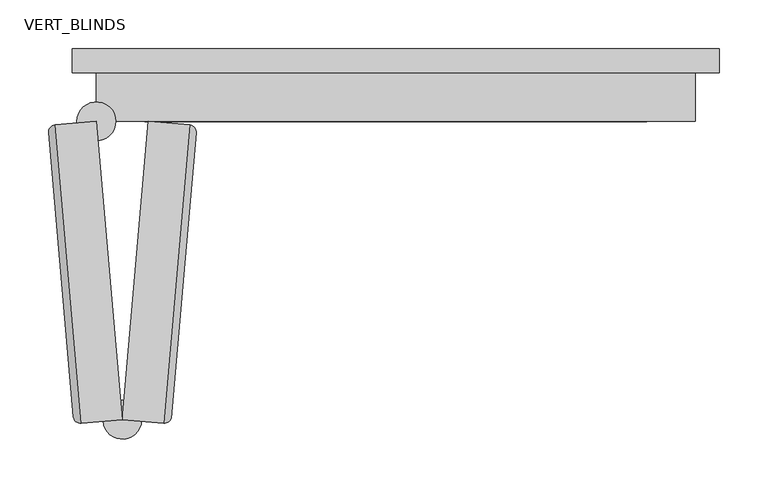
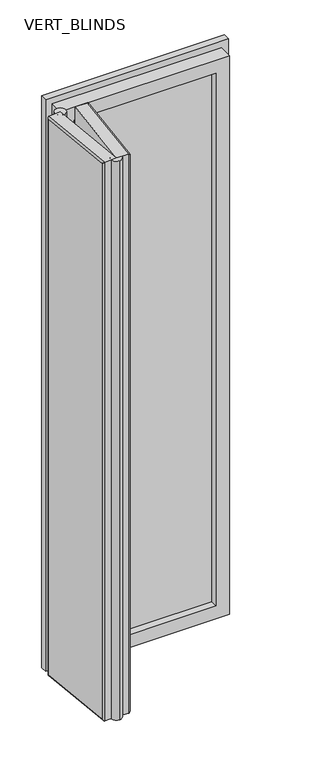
"""IFC4 building model written with IfcOpenShell, lengths in millimetres: plate geometry, CURTAIN PANEL VODA STYLE BIFOLDING : VERT_BLINDS."""

import ifcopenshell
import ifcopenshell.guid

model = None  # the IFC model being written
_history = None  # IfcOwnerHistory: only IFC2X3 demands one
_inside = {}  # id of a spatial element -> (the spatial element, [elements in it])
_under = {}  # id of a project, library or spatial element -> (it, [spatial elements below it])
_declared = {}  # id of a project -> (the project, [libraries it declares])
_typed = {}  # id of a type object -> (the type object, [elements of that type])
_made_of = {}  # id of a material, layer set ... -> (it, [elements and type objects made of it])


def new_model(schema):
    """Start an empty IFC model of exactly this schema.

    Asked for "IFC4X3", IfcOpenShell would pick the latest addendum, in which some entities
    have other attributes; the version numbers below select the first issue.
    IFC2X3 requires an IfcOwnerHistory on every rooted entity: one is made here for all.
    """
    global model, _history
    if schema == "IFC4X3":
        model = ifcopenshell.file(schema_version=(4, 3, 0, 0))
    else:
        model = ifcopenshell.file(schema=schema)
    _inside.clear()
    _under.clear()
    _declared.clear()
    _typed.clear()
    _made_of.clear()
    _history = None
    if model.schema == "IFC2X3":
        org = make("IfcOrganization", Name="unknown")
        user = make(
            "IfcPersonAndOrganization",
            ThePerson=make("IfcPerson", FamilyName="unknown"),
            TheOrganization=org,
        )
        app = make(
            "IfcApplication",
            ApplicationDeveloper=org,
            Version="unknown",
            ApplicationFullName="unknown",
            ApplicationIdentifier="unknown",
        )
        _history = make(
            "IfcOwnerHistory",
            OwningUser=user,
            OwningApplication=app,
            ChangeAction="ADDED",
            CreationDate=0,
        )
    return model


def make(cls, **values):
    """One entity of the class cls with the attributes given. An attribute that is None is left unset."""
    return model.create_entity(
        cls, **{name: value for name, value in values.items() if value is not None}
    )


def rooted(cls, **values):
    """An entity with a GlobalId (a new one), such as an element, a storey or a relation."""
    return make(cls, GlobalId=ifcopenshell.guid.new(), OwnerHistory=_history, **values)


def si_unit(unit_type, name, prefix=None):
    """IfcSIUnit, for example si_unit("LENGTHUNIT", "METRE", prefix="MILLI")."""
    return make("IfcSIUnit", UnitType=unit_type, Prefix=prefix, Name=name)


def assignment(units):
    """IfcUnitAssignment: the units of a project."""
    return None if units is None else make("IfcUnitAssignment", Units=units)


def point(xyz):
    """IfcCartesianPoint."""
    return None if xyz is None else make("IfcCartesianPoint", Coordinates=xyz)


def direction(xyz):
    """IfcDirection."""
    return None if xyz is None else make("IfcDirection", DirectionRatios=xyz)


def frame(location, z_axis=None, x_axis=None):
    """IfcAxis2Placement3D, a coordinate frame: its origin and axes. An axis left out is left unset."""
    return make(
        "IfcAxis2Placement3D",
        Location=point(location),
        Axis=direction(z_axis),
        RefDirection=direction(x_axis),
    )


def frame_2d(location, x_axis=None):
    """IfcAxis2Placement2D, a coordinate frame in the plane: its origin and x axis."""
    return make(
        "IfcAxis2Placement2D", Location=point(location), RefDirection=direction(x_axis)
    )


def origin():
    """The frame at (0, 0, 0) with its axes left unset."""
    return frame((0.0, 0.0, 0.0))


def place(relative_to, where):
    """IfcLocalPlacement: puts the frame where relative to a parent placement (None: the world)."""
    return make(
        "IfcLocalPlacement", PlacementRelTo=relative_to, RelativePlacement=where
    )


def context(
    kind, dimensions, precision=None, world=None, true_north=None, identifier=None
):
    """IfcGeometricRepresentationContext, for example the 3D "Model" context."""
    return make(
        "IfcGeometricRepresentationContext",
        ContextIdentifier=identifier,
        ContextType=kind,
        CoordinateSpaceDimension=dimensions,
        Precision=precision,
        WorldCoordinateSystem=world,
        TrueNorth=true_north,
    )


def project(units=None, contexts=None):
    """IfcProject with its units and contexts."""
    return rooted(
        "IfcProject",
        Name="project",
        RepresentationContexts=contexts,
        UnitsInContext=assignment(units),
    )


def spatial(cls, under=None, at=None, **own):
    """A site, building, storey or space (cls), placed at a placement, below another one or the project."""
    s = rooted(cls, ObjectPlacement=at, **own)
    if under is not None:
        _under.setdefault(under.id(), (under, []))[1].append(s)
    return s


def polyline(points):
    """IfcPolyline through the points."""
    return make("IfcPolyline", Points=[point(p) for p in points])


def circle_curve(where, radius):
    """IfcCircle in the frame where."""
    return make("IfcCircle", Position=where, Radius=radius)


def ellipse_curve(where, semi_axis1, semi_axis2):
    """IfcEllipse in the frame where."""
    return make(
        "IfcEllipse", Position=where, SemiAxis1=semi_axis1, SemiAxis2=semi_axis2
    )


def trimmed(basis, trim1, trim2, sense, master):
    """IfcTrimmedCurve: the piece of a basis curve between two trims."""
    return make(
        "IfcTrimmedCurve",
        BasisCurve=basis,
        Trim1=trim1,
        Trim2=trim2,
        SenseAgreement=sense,
        MasterRepresentation=master,
    )


def segment(curve, same_sense, transition):
    """IfcCompositeCurveSegment."""
    return make(
        "IfcCompositeCurveSegment",
        Transition=transition,
        SameSense=same_sense,
        ParentCurve=curve,
    )


def composite_curve(segments, self_intersect=None):
    """IfcCompositeCurve: segments joined end to end."""
    return make("IfcCompositeCurve", Segments=segments, SelfIntersect=self_intersect)


def outline(outer, holes=None, kind="AREA"):
    """IfcArbitraryClosedProfileDef: a profile drawn as a closed curve; with holes, ...WithVoids."""
    if holes is None:
        return make("IfcArbitraryClosedProfileDef", ProfileType=kind, OuterCurve=outer)
    return make(
        "IfcArbitraryProfileDefWithVoids",
        ProfileType=kind,
        OuterCurve=outer,
        InnerCurves=holes,
    )


def extrude(swept, where, along, depth):
    """IfcExtrudedAreaSolid: the profile swept, set in the frame where, extruded along a direction by depth."""
    return make(
        "IfcExtrudedAreaSolid",
        SweptArea=swept,
        Position=where,
        ExtrudedDirection=direction(along),
        Depth=depth,
    )


def faces_of(points, faces, orient=None, outer=None):
    """IfcFace entities. A face is a list of loops; a loop is a list of indices into points, from 0.

    orient and outer hold one flag for each loop. By default every Orientation is true, the
    first loop of a face is its IfcFaceOuterBound and the others are IfcFaceBound.
    """
    made = []
    for i, loops in enumerate(faces):
        bounds = []
        for j, loop in enumerate(loops):
            is_outer = j == 0 if outer is None else outer[i][j]
            bounds.append(
                make(
                    "IfcFaceOuterBound" if is_outer else "IfcFaceBound",
                    Bound=make("IfcPolyLoop", Polygon=[points[k] for k in loop]),
                    Orientation=True if orient is None else orient[i][j],
                )
            )
        made.append(make("IfcFace", Bounds=bounds))
    return made


def faceted_brep(points, faces, orient=None, outer=None, voids=None):
    """IfcFacetedBrep: a solid bounded by flat faces; with voids (closed shells), ...WithVoids."""
    shared = [point(p) for p in points]
    hull = make("IfcClosedShell", CfsFaces=faces_of(shared, faces, orient, outer))
    if voids is None:
        return make("IfcFacetedBrep", Outer=hull)
    return make(
        "IfcFacetedBrepWithVoids",
        Outer=hull,
        Voids=[
            make(cls, CfsFaces=faces_of(shared, fs, o, b)) for cls, fs, o, b in voids
        ],
    )


def shape(context_of_items, identifier, shape_type, items):
    """IfcShapeRepresentation: the items that make up one representation, for example the "Body"."""
    return make(
        "IfcShapeRepresentation",
        ContextOfItems=context_of_items,
        RepresentationIdentifier=identifier,
        RepresentationType=shape_type,
        Items=items,
    )


def source(mapping_origin, context_of_items, identifier, shape_type, items):
    """IfcRepresentationMap: a shape defined once, which mapped items show again and again."""
    return make(
        "IfcRepresentationMap",
        MappingOrigin=mapping_origin,
        MappedRepresentation=shape(context_of_items, identifier, shape_type, items),
    )


def transform(
    local_origin,
    x_axis=None,
    y_axis=None,
    z_axis=None,
    scale=None,
    scale2=None,
    scale3=None,
    uniform=True,
):
    """IfcCartesianTransformationOperator3D, or its non-uniform kind. x_axis, y_axis, z_axis: its Axis1, 2, 3."""
    if uniform:
        return make(
            "IfcCartesianTransformationOperator3D",
            Axis1=direction(x_axis),
            Axis2=direction(y_axis),
            LocalOrigin=point(local_origin),
            Scale=scale,
            Axis3=direction(z_axis),
        )
    return make(
        "IfcCartesianTransformationOperator3DnonUniform",
        Axis1=direction(x_axis),
        Axis2=direction(y_axis),
        LocalOrigin=point(local_origin),
        Scale=scale,
        Axis3=direction(z_axis),
        Scale2=scale2,
        Scale3=scale3,
    )


def mapped(mapping_source, mapping_target):
    """IfcMappedItem: shows the shape of a source again, moved by a transform."""
    return make(
        "IfcMappedItem", MappingSource=mapping_source, MappingTarget=mapping_target
    )


def made_of(thing, what):
    """Note that an element or type object is made of a material, layer set ...; save() writes the relation."""
    if what is not None:
        _made_of.setdefault(what.id(), (what, []))[1].append(thing)
    return thing


def element(
    cls,
    number,
    at=None,
    inside=None,
    cuts=None,
    type_object=None,
    material=None,
    context=None,
    identifier="Body",
    shape_type=None,
    held_by="IfcProductDefinitionShape",
    body=None,
    shapes=None,
    **own,
):
    """One element of the class cls, such as IfcWall. Its Tag is "e" and its number.

    at: its placement. inside: the storey or other place that contains it. cuts: it is an
    opening in that element (IfcRelVoidsElement). A single representation is given by context,
    identifier, shape_type and body (its items); several are given by shapes. held_by: the class
    of the entity that holds the representations. save() writes the other relations.
    """
    e = rooted(cls, Tag="e%d" % number, ObjectPlacement=at, **own)
    if body is not None:
        shapes = [shape(context, identifier, shape_type, body)]
    if shapes is not None:
        e.Representation = make(held_by, Representations=shapes)
    if inside is not None:
        _inside.setdefault(inside.id(), (inside, []))[1].append(e)
    if cuts is not None:
        rooted(
            "IfcRelVoidsElement", RelatingBuildingElement=cuts, RelatedOpeningElement=e
        )
    if type_object is not None:
        _typed.setdefault(type_object.id(), (type_object, []))[1].append(e)
    return made_of(e, material)


def aggregate(whole, parts):
    """IfcRelAggregates: a whole, such as a stair, and the parts it consists of."""
    return rooted("IfcRelAggregates", RelatingObject=whole, RelatedObjects=parts)


def save(model, path):
    """Write the relations noted so far, then the file.

    IfcRelAggregates (storeys below a building ...), IfcRelContainedInSpatialStructure (elements
    in a storey), IfcRelDefinesByType, IfcRelAssociatesMaterial and IfcRelDeclares: one each for
    every whole, place, type object, material and project.
    """
    for whole, parts in _under.values():
        aggregate(whole, parts)
    for where, things in _inside.values():
        rooted(
            "IfcRelContainedInSpatialStructure",
            RelatedElements=things,
            RelatingStructure=where,
        )
    for kind, things in _typed.values():
        rooted("IfcRelDefinesByType", RelatedObjects=things, RelatingType=kind)
    for what, things in _made_of.values():
        rooted("IfcRelAssociatesMaterial", RelatedObjects=things, RelatingMaterial=what)
    for by, libraries in _declared.values():
        rooted("IfcRelDeclares", RelatingContext=by, RelatedDefinitions=libraries)
    model.write(path)


def plane_surface(at):
    """IfcPlane: the flat surface through the origin of the frame at, square to its z axis."""
    return make("IfcPlane", Position=at)


def cylinder_surface(at, radius):
    """IfcCylindricalSurface: all points at the distance radius from the z axis of the frame at."""
    return make("IfcCylindricalSurface", Position=at, Radius=radius)


def advanced_brep(points, edges, surfaces, faces):
    """IfcAdvancedBrep: a solid bounded by faces that lie on surfaces and meet in shared edges.

    An edge is (start, end): straight between two places in points (the first is 0);
    or (start, end, curve); or (start, end, curve, False) where it runs against its curve.
    A face is (place in surfaces, loops), or (place, loops, False) where it looks against
    its surface's normal. A loop lists edges by number (the first is 1), with a minus sign
    where the edge is run from its end to its start. The first loop is the outer one.
    """
    corners = [point(p) for p in points]
    vertices = [make("IfcVertexPoint", VertexGeometry=c) for c in corners]
    made = []
    for start, end, *more in edges:
        made.append(
            make(
                "IfcEdgeCurve",
                EdgeStart=vertices[start],
                EdgeEnd=vertices[end],
                EdgeGeometry=more[0] if more else make("IfcPolyline", Points=[corners[start], corners[end]]),
                SameSense=more[1] if len(more) > 1 else True,
            )
        )
    hull = []
    for where, loops, *sense in faces:
        bounds = []
        for j, loop in enumerate(loops):
            ring = [make("IfcOrientedEdge", EdgeElement=made[abs(k) - 1], Orientation=k > 0) for k in loop]
            bounds.append(
                make(
                    "IfcFaceOuterBound" if j == 0 else "IfcFaceBound",
                    Bound=make("IfcEdgeLoop", EdgeList=ring),
                    Orientation=True,
                )
            )
        hull.append(make("IfcAdvancedFace", Bounds=bounds, FaceSurface=surfaces[where], SameSense=sense[0] if sense else True))
    return make("IfcAdvancedBrep", Outer=make("IfcClosedShell", CfsFaces=hull))


def vert_blinds_a71b7738(model_context):
    return source(origin(), model_context, "Body", "SolidModel", [
        advanced_brep(
        [(-308.3333333, -50.0, 2175.0), (-350.671608, -53.7041191, 2175.0), (-323.7985873, -360.864151, 2175.0), (-281.4603127, -357.1600319, 2175.0), (-281.4603127, -357.1600319, 25.0), (-323.7985873, -360.864151, 25.0), (-350.671608, -53.7041191, 25.0), (-308.3333333, -50.0, 25.0), (-357.4894002, -61.8292474, 32.5), (-331.9237156, -354.0463588, 32.5), (-331.9237156, -354.0463588, 2167.5), (-357.4894002, -61.8292474, 2167.5)],
        [
            (0, 1),
            (1, 2),
            (2, 3),
            (3, 0),
            (4, 5),
            (5, 6),
            (6, 7),
            (7, 4),
            (2, 5),
            (4, 3),
            (8, 9),
            (9, 10),
            (10, 11),
            (11, 8),
            (6, 1),
            (0, 7),
            (11, 1, ellipse_curve(frame((-350.0179399, -61.1755793, 2167.5), z_axis=(-0.061628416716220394, 0.7044160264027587, -0.7071067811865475), x_axis=(0.061628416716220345, -0.7044160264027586, -0.7071067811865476)), 10.6066017, 7.5)),
            (6, 8, ellipse_curve(frame((-350.0179399, -61.1755793, 32.5), z_axis=(-0.06162841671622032, 0.7044160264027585, 0.7071067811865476), x_axis=(-0.061628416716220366, 0.7044160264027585, -0.7071067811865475)), 10.6066017, 7.5)),
            (5, 9, ellipse_curve(frame((-324.4522554, -353.3926907, 32.5), z_axis=(-0.06162841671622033, 0.7044160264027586, -0.7071067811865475), x_axis=(0.06162841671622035, -0.7044160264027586, -0.7071067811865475)), 10.6066017, 7.5)),
            (2, 10, ellipse_curve(frame((-324.4522554, -353.3926907, 2167.5), z_axis=(0.06162841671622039, -0.7044160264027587, -0.7071067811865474), x_axis=(0.06162841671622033, -0.7044160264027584, 0.7071067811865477)), 10.6066017, 7.5)),
        ],
        [
            plane_surface(frame((-331.2700476, -361.517819, 2175.0), z_axis=(0.0, 0.0, 1.0), x_axis=(-0.9961946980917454, -0.0871557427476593, 0.0))),
            plane_surface(frame((-331.2700476, -361.517819, 25.0), z_axis=(0.0, 0.0, -1.0), x_axis=(0.9961946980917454, 0.0871557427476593, 0.0))),
            plane_surface(frame((-281.4603127, -357.1600319, 2175.0), z_axis=(0.0871557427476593, -0.9961946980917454, 0.0), x_axis=(0.0, 0.0, -1.0))),
            plane_surface(frame((-331.2700476, -361.517819, 2175.0), z_axis=(-0.9961946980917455, -0.08715574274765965, 0.0), x_axis=(0.0, 0.0, -1.0))),
            plane_surface(frame((-358.1430682, -54.3577871, 2175.0), z_axis=(-0.08715574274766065, 0.9961946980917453, 0.0), x_axis=(0.0, 0.0, -1.0))),
            plane_surface(frame((-308.3333333, -50.0, 2175.0), z_axis=(0.9961946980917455, 0.08715574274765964, 0.0), x_axis=(0.0, 0.0, -1.0))),
            cylinder_surface(frame((-350.0179399, -61.1755793, 2175.0), z_axis=(0.0, 0.0, -1.0000000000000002), x_axis=(0.9961946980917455, 0.08715574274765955, 0.0)), 7.5),
            cylinder_surface(frame((-350.671608, -53.7041191, 32.5), z_axis=(0.08715574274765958, -0.9961946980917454, 0.0), x_axis=(0.9961946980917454, 0.08715574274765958, 0.0)), 7.5),
            cylinder_surface(frame((-324.4522554, -353.3926907, 25.0), z_axis=(0.0, 0.0, 1.0000000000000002), x_axis=(0.9961946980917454, 0.08715574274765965, 0.0)), 7.5),
            cylinder_surface(frame((-323.7985873, -360.864151, 2167.5), z_axis=(-0.08715574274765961, 0.9961946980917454, 0.0), x_axis=(0.9961946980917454, 0.08715574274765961, 0.0)), 7.5),
        ],
        [
            (0, [[1, 2, 3, 4]]),
            (1, [[5, 6, 7, 8]]),
            (2, [[-3, 9, -5, 10]]),
            (3, [[11, 12, 13, 14]]),
            (4, [[-7, 15, -1, 16]]),
            (5, [[-10, -8, -16, -4]]),
            (6, [[-14, 17, -15, 18]]),
            (7, [[-6, 19, -11, -18]]),
            (8, [[-9, 20, -12, -19]]),
            (9, [[-13, -20, -2, -17]]),
        ],
    ),
        advanced_brep(
        [(-281.4603127, -357.1600319, 2175.0), (-239.122038, -360.864151, 2175.0), (-212.2490173, -53.7041191, 2175.0), (-254.587292, -50.0, 2175.0), (-254.587292, -50.0, 25.0), (-212.2490173, -53.7041191, 25.0), (-239.122038, -360.864151, 25.0), (-281.4603127, -357.1600319, 25.0), (-230.9969097, -354.0463588, 32.5), (-205.4312251, -61.8292474, 32.5), (-205.4312251, -61.8292474, 2167.5), (-230.9969097, -354.0463588, 2167.5)],
        [
            (0, 1),
            (1, 2),
            (2, 3),
            (3, 0),
            (4, 5),
            (5, 6),
            (6, 7),
            (7, 4),
            (2, 5),
            (4, 3),
            (8, 9),
            (9, 10),
            (10, 11),
            (11, 8),
            (6, 1),
            (0, 7),
            (11, 1, ellipse_curve(frame((-238.4683699, -353.3926907, 2167.5), z_axis=(-0.061628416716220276, -0.7044160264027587, -0.7071067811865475), x_axis=(0.06162841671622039, 0.7044160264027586, -0.7071067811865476)), 10.6066017, 7.5)),
            (6, 8, ellipse_curve(frame((-238.4683699, -353.3926907, 32.5), z_axis=(-0.06162841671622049, -0.7044160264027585, 0.7071067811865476), x_axis=(-0.06162841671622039, -0.7044160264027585, -0.7071067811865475)), 10.6066017, 7.5)),
            (5, 9, ellipse_curve(frame((-212.9026854, -61.1755793, 32.5), z_axis=(-0.061628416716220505, -0.7044160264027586, -0.7071067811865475), x_axis=(0.06162841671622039, 0.7044160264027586, -0.7071067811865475)), 10.6066017, 7.5)),
            (2, 10, ellipse_curve(frame((-212.9026854, -61.1755793, 2167.5), z_axis=(0.061628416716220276, 0.7044160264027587, -0.7071067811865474), x_axis=(0.061628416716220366, 0.7044160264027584, 0.7071067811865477)), 10.6066017, 7.5)),
        ],
        [
            plane_surface(frame((-204.7775571, -54.3577871, 2175.0), z_axis=(0.0, 0.0, 1.0), x_axis=(0.9961946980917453, -0.08715574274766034, 0.0))),
            plane_surface(frame((-204.7775571, -54.3577871, 25.0), z_axis=(0.0, 0.0, -1.0), x_axis=(-0.9961946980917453, 0.08715574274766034, 0.0))),
            plane_surface(frame((-254.587292, -50.0, 2175.0), z_axis=(0.08715574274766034, 0.9961946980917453, 0.0), x_axis=(0.0, 0.0, -1.0))),
            plane_surface(frame((-204.7775571, -54.3577871, 2175.0), z_axis=(0.9961946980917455, -0.08715574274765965, 0.0), x_axis=(0.0, 0.0, -1.0))),
            plane_surface(frame((-231.6505777, -361.517819, 2175.0), z_axis=(-0.08715574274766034, -0.9961946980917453, 0.0), x_axis=(0.0, 0.0, -1.0))),
            plane_surface(frame((-281.4603127, -357.1600319, 2175.0), z_axis=(-0.9961946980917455, 0.08715574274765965, 0.0), x_axis=(0.0, 0.0, -1.0))),
            cylinder_surface(frame((-238.4683699, -353.3926907, 2175.0), z_axis=(0.0, 0.0, -1.0000000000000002), x_axis=(-0.9961946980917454, 0.08715574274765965, 0.0)), 7.5),
            cylinder_surface(frame((-239.122038, -360.864151, 32.5), z_axis=(0.08715574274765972, 0.9961946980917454, 0.0), x_axis=(-0.9961946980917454, 0.08715574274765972, 0.0)), 7.5),
            cylinder_surface(frame((-212.9026854, -61.1755793, 25.0), z_axis=(0.0, 0.0, 1.0000000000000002), x_axis=(-0.9961946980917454, 0.08715574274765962, 0.0)), 7.5),
            cylinder_surface(frame((-212.2490173, -53.7041191, 2167.5), z_axis=(-0.08715574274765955, -0.9961946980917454, 0.0), x_axis=(-0.9961946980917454, 0.08715574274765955, 0.0)), 7.5),
        ],
        [
            (0, [[1, 2, 3, 4]]),
            (1, [[5, 6, 7, 8]]),
            (2, [[-3, 9, -5, 10]]),
            (3, [[11, 12, 13, 14]]),
            (4, [[-7, 15, -1, 16]]),
            (5, [[-10, -8, -16, -4]]),
            (6, [[-14, 17, -15, 18]]),
            (7, [[-6, 19, -11, -18]]),
            (8, [[-9, 20, -12, -19]]),
            (9, [[-13, -20, -2, -17]]),
        ],
    ),
        extrude(outline(composite_curve([segment(trimmed(circle_curve(frame_2d((-308.3333333, -50.0)), 20.0), [point((-328.3333333, -50.0))], [point((-288.3333333, -50.0))], False, "CARTESIAN"), True, "CONTINUOUS"), segment(trimmed(circle_curve(frame_2d((-308.3333333, -50.0)), 20.0), [point((-288.3333333, -50.0))], [point((-328.3333333, -50.0))], False, "CARTESIAN"), True, "CONTINUOUS")], self_intersect=False)), frame((0.0, 0.0, 25.0), z_axis=(0.0, 0.0, 1.0), x_axis=(1.0, 0.0, 0.0)), (0.0, 0.0, 1.0), 2150.0),
        extrude(outline(composite_curve([segment(trimmed(circle_curve(frame_2d((-281.4603127, -357.1600319)), 20.0), [point((-283.2034275, -337.2361379))], [point((-279.7171978, -377.0839259))], False, "CARTESIAN"), True, "CONTINUOUS"), segment(trimmed(circle_curve(frame_2d((-281.4603127, -357.1600319)), 20.0), [point((-279.7171978, -377.0839259))], [point((-283.2034275, -337.2361379))], False, "CARTESIAN"), True, "CONTINUOUS")], self_intersect=False)), frame((0.0, 0.0, 25.0), z_axis=(0.0, 0.0, 1.0), x_axis=(1.0, 0.0, 0.0)), (0.0, 0.0, 1.0), 2150.0),
        extrude(outline(polyline([(-258.3333333, -24.0), (-258.3333333, 0.0), (258.3333333, 0.0), (258.3333333, -24.0), (-258.3333333, -24.0)])), frame((0.0, 0.0, 75.0), z_axis=(0.0, 0.0, 1.0), x_axis=(1.0, 0.0, 0.0)), (0.0, 0.0, 1.0), 2050.0),
        faceted_brep([(-258.3333333, -50.0, 2125.0), (-258.3333333, -50.0, 75.0), (-258.3333333, 25.0, 75.0), (-258.3333333, 25.0, 2125.0), (-333.3333333, 25.0, 2200.0), (-333.3333333, 25.0, 0.0), (-333.3333333, 0.0, 0.0), (-333.3333333, 0.0, 2200.0), (-308.3333333, 0.0, 2175.0), (-308.3333333, 0.0, 25.0), (-308.3333333, -50.0, 25.0), (-308.3333333, -50.0, 2175.0), (258.3333333, -50.0, 75.0), (258.3333333, 25.0, 75.0), (333.3333333, 25.0, 0.0), (333.3333333, 0.0, 0.0), (308.3333333, 0.0, 25.0), (308.3333333, -50.0, 25.0), (258.3333333, -50.0, 2125.0), (258.3333333, 25.0, 2125.0), (333.3333333, 25.0, 2200.0), (333.3333333, 0.0, 2200.0), (308.3333333, 0.0, 2175.0), (308.3333333, -50.0, 2175.0)], [[[0, 1, 2, 3]], [[4, 5, 6, 7]], [[8, 9, 10, 11]], [[1, 12, 13, 2]], [[5, 14, 15, 6]], [[9, 16, 17, 10]], [[12, 18, 19, 13]], [[14, 20, 21, 15]], [[16, 22, 23, 17]], [[11, 10, 17, 23], [1, 0, 18, 12]], [[18, 0, 3, 19]], [[5, 4, 20, 14], [3, 2, 13, 19]], [[20, 4, 7, 21]], [[7, 6, 15, 21], [9, 8, 22, 16]], [[22, 8, 11, 23]]]),
    ])


if __name__ == "__main__":
    model = new_model("IFC4")
    model_context = context("Model", 3, world=origin())
    ifc_project = project(units=[si_unit("LENGTHUNIT", "METRE", prefix="MILLI")], contexts=[model_context])
    site = spatial("IfcSite", under=ifc_project)
    building = spatial("IfcBuilding", under=site)
    placement = place(None, origin())
    vert_blinds_shape = vert_blinds_a71b7738(model_context)
    element("IfcPlate", 1, ObjectType="CURTAIN PANEL VODA STYLE BIFOLDING : VERT_BLINDS", at=placement, inside=building, context=model_context, shape_type="MappedRepresentation", body=[
        mapped(vert_blinds_shape, transform((0.0, 0.0, 0.0), x_axis=(1.0, 0.0, 0.0), y_axis=(0.0, 1.0, 0.0), z_axis=(0.0, 0.0, 1.0))),
    ])
    save(model, "model.ifc")
